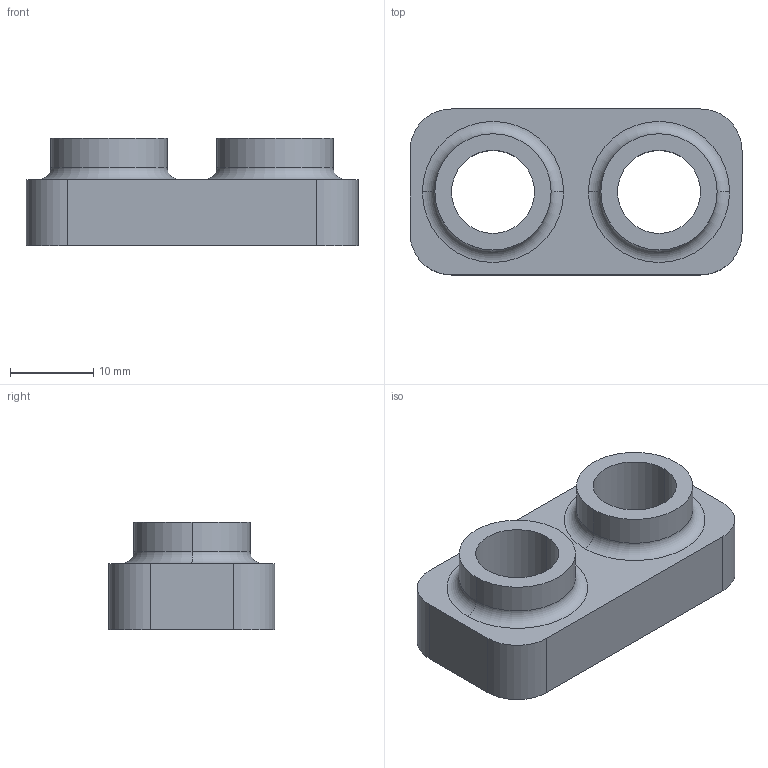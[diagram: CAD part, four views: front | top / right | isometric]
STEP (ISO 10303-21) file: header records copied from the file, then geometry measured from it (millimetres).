
FILE_DESCRIPTION (( 'STEP AP214' ), '1' );
FILE_NAME ('2026_6_4_絶縁スペーサー.STEP', '2026-06-26T08:58:49', ( '' ), ( '' ), 'SwSTEP 2.0', 'SolidWorks 2025', '' );
FILE_SCHEMA (( 'AUTOMOTIVE_DESIGN' ));
Length unit declared in the file: millimetre
Products named in the file (1): 2026_6_4_絶縁スペーサー
Bounding box: 40 x 20 x 13 mm (x, y, z)
Volume: 5770.2 mm3; surface area: 3336.3 mm2
Topology: 1 solids, 1 shells, 24 faces, 56 edges, 36 vertices
Faces by surface type: cylinder 12, plane 8, torus 4
Entity records: 731 total; most frequent: DIRECTION 138, CARTESIAN_POINT 117, ORIENTED_EDGE 112, AXIS2_PLACEMENT_3D 57, EDGE_CURVE 56, VERTEX_POINT 36, CIRCLE 32, EDGE_LOOP 30
